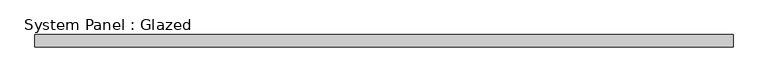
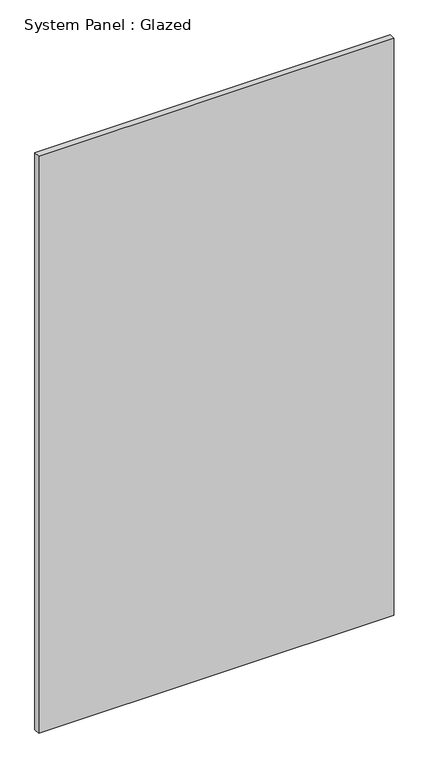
"""IFC4 building model written with IfcOpenShell, lengths in millimetres: plate geometry, System Panel : Glazed."""

from ifc_helpers import new_model, si_unit, origin, origin_with_axes, place, context, project, spatial, polyline, outline, extrude, source, transform, mapped, element, save


def system_panel_glazed_b6864aef(model_context):
    return source(origin(), model_context, "Body", "SweptSolid", [
        extrude(outline(polyline([(713.2125, 24.5), (-713.2125, 24.5), (-713.2125, 49.5), (713.2125, 49.5), (713.2125, 24.5)])), origin_with_axes(), (0.0, 0.0, 1.0), 2450.0),
    ])


if __name__ == "__main__":
    model = new_model("IFC4")
    model_context = context("Model", 3, world=origin())
    ifc_project = project(units=[si_unit("LENGTHUNIT", "METRE", prefix="MILLI")], contexts=[model_context])
    site = spatial("IfcSite", under=ifc_project)
    building = spatial("IfcBuilding", under=site)
    placement = place(None, origin())
    system_panel_glazed_shape = system_panel_glazed_b6864aef(model_context)
    element("IfcPlate", 1, ObjectType="System Panel : Glazed", at=placement, inside=building, context=model_context, shape_type="MappedRepresentation", body=[
        mapped(system_panel_glazed_shape, transform((0.0, 0.0, 0.0), x_axis=(1.0, 0.0, 0.0), y_axis=(0.0, 1.0, 0.0), z_axis=(0.0, 0.0, 1.0))),
    ])
    save(model, "model.ifc")
